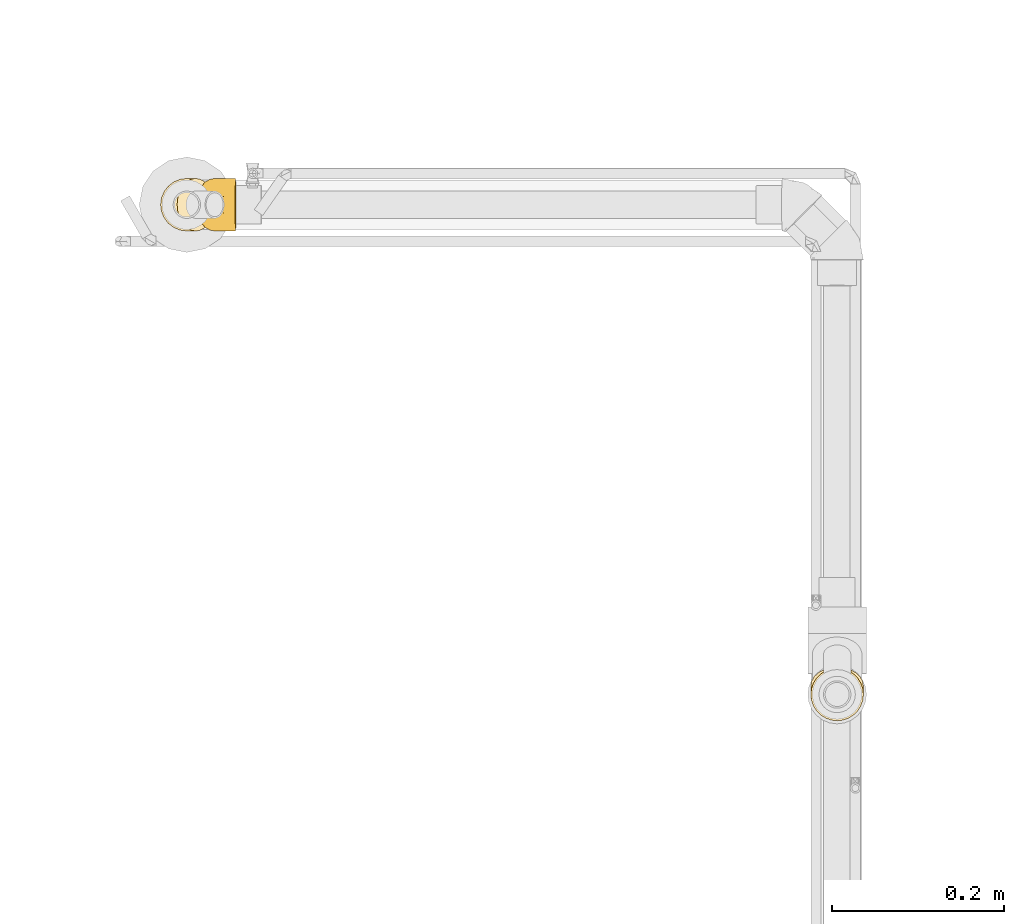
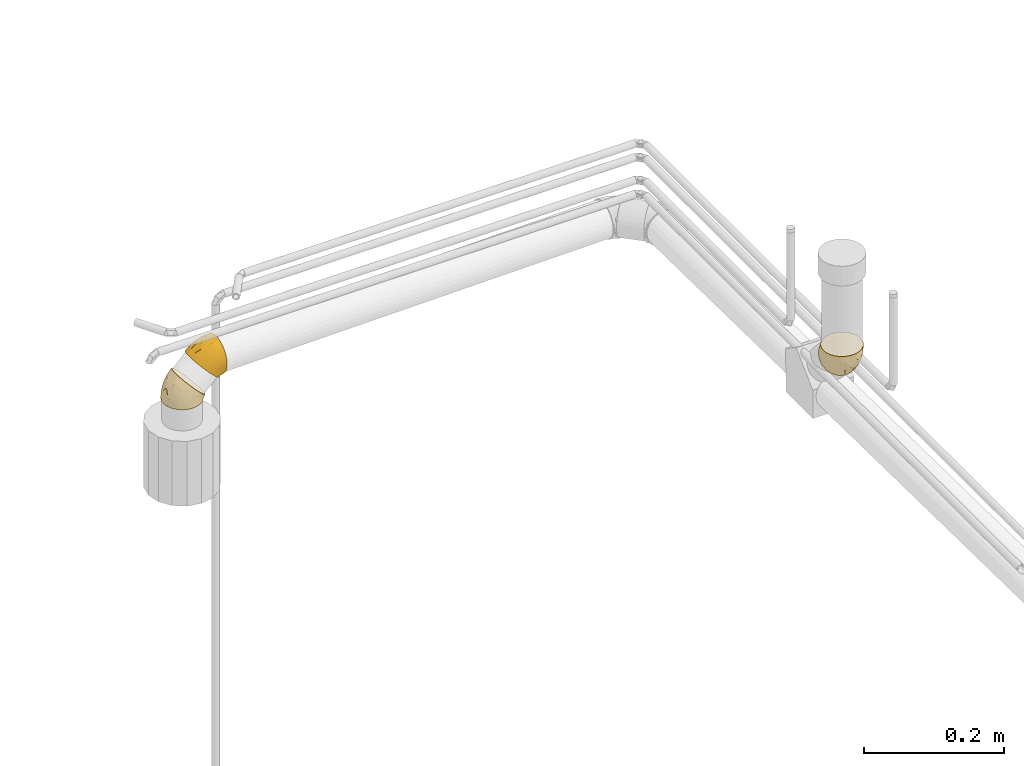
# One storey, part 17 of 108: 3 coverings.
"""IFC2X3 building model written with IfcOpenShell, lengths in millimetres."""

from ifc_helpers import new_model, entity, si_unit, converted_unit, derived_unit, direction, frame, origin_with_axes, place, context, subcontext, project, spatial, open_shell, surface_model, source, transform, mapped, element, save


model = new_model("IFC2X3")

# Units and contexts
model_context = context("Model", 3, precision=0.01, world=frame((0.0, 4.29681676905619e-09, 0.0)), true_north=direction((4.01073788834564e-13, 1.0)))
plan_context = context("Plan", 3, precision=0.01, world=frame((0.0, 4.29681676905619e-09, 0.0)), true_north=direction((4.01073788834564e-13, 1.0)))
body_context = subcontext(model_context, "Body", "Model", "MODEL_VIEW")
ifc_project = project(units=[converted_unit("PLANEANGLEUNIT", "DEGREE", entity("IfcPositiveLengthMeasure", 0.0174532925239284), si_unit("PLANEANGLEUNIT", "RADIAN"), dimensions=[0, 0, 0, 0, 0, 0, 0]), si_unit("AREAUNIT", "SQUARE_METRE"), si_unit("LENGTHUNIT", "METRE", prefix="MILLI"), si_unit("MASSUNIT", "GRAM", prefix="KILO"), si_unit("POWERUNIT", "WATT"), si_unit("PRESSUREUNIT", "PASCAL", prefix="KILO"), si_unit("FORCEUNIT", "NEWTON", prefix="KILO"), si_unit("ELECTRICVOLTAGEUNIT", "VOLT"), si_unit("ELECTRICCURRENTUNIT", "AMPERE"), si_unit("THERMODYNAMICTEMPERATUREUNIT", "DEGREE_CELSIUS"), si_unit("TIMEUNIT", "SECOND"), si_unit("VOLUMEUNIT", "CUBIC_METRE"), derived_unit("LINEARVELOCITYUNIT", [(si_unit("LENGTHUNIT", "METRE"), 1), (si_unit("TIMEUNIT", "SECOND"), -1)]), derived_unit("VOLUMETRICFLOWRATEUNIT", [(si_unit("VOLUMEUNIT", "CUBIC_METRE"), 1), (si_unit("TIMEUNIT", "SECOND"), -1)]), derived_unit("THERMALTRANSMITTANCEUNIT", [(si_unit("POWERUNIT", "WATT"), 1), (si_unit("THERMODYNAMICTEMPERATUREUNIT", "KELVIN"), -1), (si_unit("AREAUNIT", "SQUARE_METRE"), -1)]), derived_unit("SOUNDPRESSUREUNIT", [(si_unit("PRESSUREUNIT", "PASCAL"), 1)])], contexts=[model_context, plan_context])

# Site, building, storey
site_placement = place(None, frame((0.0, -4.29681676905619e-09, 0.0), z_axis=(0.0, 0.0, 1.0), x_axis=(1.0, 0.0, 0.0)))
site = spatial("IfcSite", under=ifc_project, at=site_placement, CompositionType="ELEMENT")
building_placement = place(site_placement, frame((0.0, 4.29681676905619e-09, 0.0), z_axis=(0.0, 0.0, 1.0), x_axis=(1.0, 0.0, 0.0)))
building = spatial("IfcBuilding", under=site, at=building_placement, Name="mc-building", CompositionType="ELEMENT")
storey_placement = place(building_placement, frame((0.0, 0.0, 210200.0), z_axis=(0.0, 0.0, 1.0), x_axis=(1.0, 0.0, 0.0)))
storey = spatial("IfcBuildingStorey", under=building, at=storey_placement, Name="Nivå F - 0,7 m", CompositionType="ELEMENT", Elevation=210200.0)

# Coverings
shared_shape_1 = source(origin_with_axes(), body_context, "Body", "SurfaceModel", [
    surface_model("IfcShellBasedSurfaceModel", [(-11.32763, 31.94731, 0.0), (-10.78458, 31.40426, 6.81254), (-9.1832, 29.80288, 13.28167), (-3.17775, 23.79743, 23.9276), (0.92483, 19.69486, 27.57178), (5.4978, 15.12188, 29.83368), (-6.60438, 27.22406, 19.08346), (27.22406, -6.60438, -19.08346), (-6.60952, 27.22921, -19.07433), (-9.18635, 29.80603, -13.27241), (-10.78576, 31.40544, -6.80525), (-3.1842, 23.80388, -23.92032), (0.91828, 19.7014, -27.56732), (10.30984, 10.30984, -30.6), (5.49265, 15.12704, -29.83202), (31.94731, -11.32763, 0.0), (15.12704, 5.49265, 29.83202), (19.7014, 0.91828, 27.56732), (27.22921, -6.60952, 19.07433), (29.80603, -9.18635, 13.27241), (23.80388, -3.1842, 23.92032), (31.40544, -10.78576, 6.80525), (19.69486, 0.92483, -27.57178), (23.79743, -3.17775, -23.9276), (15.12188, 5.4978, -29.83368), (31.40426, -10.78458, -6.81254), (29.80288, -9.1832, -13.28167), (10.30984, 10.30984, 30.6), (-14.58032, 29.55733, -7.91986), (-14.58032, 29.55733, 7.91986), (-14.58032, 30.6, 0.0), (-14.58032, 21.63747, -21.63747), (-14.58032, 26.50038, -15.3), (-14.58032, 15.3, -26.50038), (-14.58032, 26.50038, 15.3), (-14.58032, 7.91986, -29.55733), (-14.58032, 7.91986, 29.55733), (-14.58032, 21.63747, 21.63747), (-14.58032, 15.3, 26.50038), (-14.58032, -7.91986, 29.55733), (-14.58032, 0.0, 30.6), (-14.58032, 0.0, -30.6), (-14.58032, -7.91986, -29.55733), (-14.58032, -15.3, -26.50038), (-14.58032, -21.63747, -21.63747), (-14.58032, -26.50038, -15.3), (-14.58032, -29.55733, -7.91986), (-14.58032, -30.6, 0.0), (-14.58032, -15.3, 26.50038), (-14.58032, -29.55733, 7.91986), (-14.58032, -21.63747, 21.63747), (-14.58032, -26.50038, 15.3), (-3.31694, -19.08895, 22.94554), (-2.96055, -23.56618, 18.05755), (4.28228, -27.30645, 5.56058), (9.39397, -21.73659, 15.16447), (-1.7164, -27.15946, 11.21067), (15.88187, -13.54981, 20.97029), (-1.86061, -4.62817, 29.87755), (6.51082, 1.42545, 30.24937), (-1.10986, 2.67944, 30.6), (-3.4156, -11.50094, 27.78642), (15.29276, -7.55457, 25.47194), (6.09315, -13.56566, 24.91387), (8.01639, -5.52529, 28.40751), (-1.99003, -28.09564, 0.0), (10.60025, -25.59127, 0.0), (19.72319, -19.13401, 9.59543), (20.34533, -15.40121, 15.66878), (21.27378, -18.45945, 0.0), (6.13075, -19.15711, 20.21833), (-7.77081, 10.51178, 29.05846), (-1.5982, 13.72077, 28.8843), (5.46985, 7.07586, 30.6), (-7.84509, 1.33972, 30.6), (-7.21382, 17.7683, 25.91258), (-11.13057, 17.67143, 25.21609), (-12.94675, 29.27613, 9.60031), (-12.81997, 30.95015, 0.0), (-13.70015, 30.77508, 0.0), (-10.6141, 22.22624, 21.64141), (-12.652, 25.39805, 17.34379), (-7.56281, 23.58928, 21.64159), (-3.75572, 19.67719, 25.91258), (-11.96012, 31.52469, 0.0), (-11.31209, 29.79225, 10.11071), (-10.96293, 26.63968, 16.28498), (-9.26464, 27.57713, 16.28498), (-12.94733, 29.27954, -9.58989), (-11.31343, 29.79486, -10.10234), (-10.96509, 26.64511, -16.27569), (-12.6524, 25.404, -17.33519), (-7.77496, 10.52145, -29.05502), (-1.10986, 2.67944, -30.6), (-7.84509, 1.33972, -30.6), (-10.61641, 22.23379, -21.63352), (-11.13357, 17.67961, -25.21017), (-7.56708, 23.59634, -21.63334), (-9.26797, 27.58193, -16.27569), (5.46985, 7.07586, -30.6), (-1.60322, 13.72753, -28.88137), (-7.21768, 17.77675, -25.90675), (-3.76105, 19.6848, -25.90675), (8.0129, -5.51777, -28.41082), (4.28235, -27.30661, -5.55962), (-1.85891, -4.62315, -29.8785), (-2.96595, -23.56704, -18.05782), (-1.71033, -27.1583, -11.21043), (-3.42387, -11.49277, -27.79098), (6.09056, -13.55719, -24.92014), (-3.31399, -19.08646, -22.94716), (9.39135, -21.7321, -15.17351), (6.50892, 1.42782, -30.24983), (15.28786, -7.54692, -25.47798), (6.13182, -19.15831, -20.21661), (20.34212, -15.39869, -15.67532), (15.87812, -13.54289, -20.97863), (19.72055, -19.1325, -9.60354)], [open_shell([[[0, 1, 2]], [[0, 2, 3]], [[4, 5, 3]], [[3, 5, 0]], [[2, 6, 3]], [[7, 8, 0]], [[0, 8, 9]], [[9, 10, 0]], [[11, 8, 12]], [[13, 14, 12]], [[8, 13, 12]], [[7, 13, 8]], [[0, 5, 15]], [[15, 5, 16]], [[17, 15, 16]], [[17, 18, 15]], [[18, 19, 15]], [[18, 17, 20]], [[15, 19, 21]], [[22, 7, 23]], [[7, 22, 24]], [[15, 25, 7]], [[26, 7, 25]], [[24, 13, 7]], [[15, 7, 0]], [[27, 16, 5]], [[28, 29, 30]], [[31, 28, 32]], [[29, 28, 33]], [[33, 28, 31]], [[34, 33, 35]], [[34, 36, 37]], [[34, 29, 33]], [[37, 36, 38]], [[34, 35, 36]], [[39, 40, 36]], [[36, 35, 39]], [[41, 42, 43]], [[39, 41, 43]], [[44, 45, 46]], [[43, 44, 39]], [[46, 47, 44]], [[48, 49, 50]], [[47, 48, 39]], [[50, 49, 51]], [[49, 48, 47]], [[39, 44, 47]], [[41, 39, 35]], [[52, 48, 50]], [[50, 51, 53]], [[54, 55, 56]], [[50, 53, 52]], [[53, 56, 55]], [[20, 57, 18]], [[58, 59, 60]], [[58, 39, 61]], [[62, 57, 20]], [[40, 39, 58]], [[63, 64, 61]], [[61, 48, 52]], [[49, 47, 65]], [[54, 66, 67]], [[57, 68, 18]], [[19, 68, 67]], [[58, 61, 64]], [[69, 21, 67]], [[51, 49, 56]], [[49, 54, 56]], [[68, 55, 67]], [[59, 27, 60]], [[17, 16, 64]], [[62, 64, 63]], [[21, 69, 15]], [[54, 67, 55]], [[17, 62, 20]], [[65, 54, 49]], [[66, 54, 65]], [[19, 67, 21]], [[39, 48, 61]], [[63, 52, 70]], [[59, 64, 16]], [[58, 60, 40]], [[56, 53, 51]], [[55, 57, 70]], [[70, 52, 53]], [[52, 63, 61]], [[55, 70, 53]], [[63, 70, 57]], [[64, 62, 17]], [[57, 62, 63]], [[64, 59, 58]], [[27, 59, 16]], [[18, 68, 19]], [[57, 55, 68]], [[67, 66, 69]], [[71, 60, 72]], [[72, 73, 5]], [[36, 74, 71]], [[71, 75, 76]], [[77, 78, 79]], [[75, 80, 76]], [[77, 34, 81]], [[82, 83, 3]], [[82, 80, 75]], [[1, 0, 84]], [[78, 77, 85]], [[79, 29, 77]], [[4, 72, 5]], [[34, 77, 29]], [[4, 83, 72]], [[3, 6, 82]], [[3, 83, 4]], [[2, 1, 85]], [[85, 1, 84]], [[82, 75, 83]], [[77, 86, 85]], [[87, 6, 2]], [[78, 85, 84]], [[80, 82, 86]], [[87, 82, 6]], [[87, 85, 86]], [[71, 72, 75]], [[38, 36, 71]], [[5, 73, 27]], [[72, 60, 73]], [[29, 79, 30]], [[37, 80, 81]], [[72, 83, 75]], [[85, 87, 2]], [[82, 87, 86]], [[81, 80, 86]], [[76, 37, 38]], [[77, 81, 86]], [[37, 81, 34]], [[37, 76, 80]], [[71, 76, 38]], [[74, 36, 40]], [[74, 60, 71]], [[88, 78, 89]], [[89, 84, 10]], [[28, 79, 88]], [[88, 90, 91]], [[92, 93, 94]], [[90, 95, 91]], [[92, 33, 96]], [[97, 98, 8]], [[97, 95, 90]], [[14, 13, 99]], [[93, 92, 100]], [[94, 35, 92]], [[9, 89, 10]], [[33, 92, 35]], [[89, 9, 98]], [[100, 14, 99]], [[9, 8, 98]], [[88, 89, 90]], [[10, 84, 0]], [[97, 90, 98]], [[92, 101, 100]], [[102, 11, 12]], [[93, 100, 99]], [[31, 95, 96]], [[12, 14, 100]], [[102, 100, 101]], [[102, 97, 11]], [[8, 11, 97]], [[95, 97, 101]], [[89, 78, 84]], [[35, 94, 41]], [[32, 28, 88]], [[89, 98, 90]], [[100, 102, 12]], [[97, 102, 101]], [[96, 95, 101]], [[91, 31, 32]], [[92, 96, 101]], [[31, 96, 33]], [[31, 91, 95]], [[88, 91, 32]], [[79, 28, 30]], [[79, 78, 88]], [[24, 22, 103]], [[46, 104, 65]], [[93, 105, 41]], [[44, 106, 45]], [[46, 107, 104]], [[108, 103, 109]], [[106, 107, 45]], [[42, 41, 105]], [[108, 110, 43]], [[104, 107, 111]], [[43, 42, 108]], [[104, 66, 65]], [[112, 103, 105]], [[47, 46, 65]], [[103, 22, 113]], [[114, 111, 106]], [[113, 22, 23]], [[103, 108, 105]], [[115, 7, 26]], [[109, 113, 116]], [[46, 45, 107]], [[26, 117, 115]], [[104, 117, 66]], [[106, 110, 114]], [[115, 117, 111]], [[25, 69, 117]], [[26, 25, 117]], [[109, 110, 108]], [[112, 13, 24]], [[104, 111, 117]], [[116, 23, 7]], [[42, 105, 108]], [[112, 105, 93]], [[110, 106, 44]], [[107, 106, 111]], [[43, 110, 44]], [[114, 109, 116]], [[109, 114, 110]], [[111, 114, 116]], [[116, 113, 23]], [[103, 113, 109]], [[13, 112, 93]], [[103, 112, 24]], [[111, 116, 115]], [[7, 115, 116]], [[69, 25, 15]], [[69, 66, 117]]])]),
])
covering_1_placement = place(storey_placement, frame((330364.34908, 462127.61957, 172.719459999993), z_axis=(0.0, 1.0, 0.0), x_axis=(0.0, 0.0, 1.0)))
element("IfcCovering", 1, at=covering_1_placement, inside=storey, Name="BI17T - Cellegummi 13 mm SPV fett", PredefinedType="INSULATION", context=body_context, shape_type="MappedRepresentation", body=[
    mapped(shared_shape_1, transform((0.0, 0.0, 0.0), scale=1.0)),
])
shared_shape_2 = source(origin_with_axes(), body_context, "Body", "SurfaceModel", [
    surface_model("IfcShellBasedSurfaceModel", [(-11.03983, 31.89356, 0.0), (-10.50591, 31.34154, 6.81254), (-8.93143, 29.71369, 13.28167), (-6.401, 27.09749, -19.07433), (1.00675, 19.43863, 27.57178), (5.50288, 14.79008, 29.83368), (-3.02689, 23.609, 23.9276), (-6.39595, 27.09226, 19.08346), (10.23406, 9.89852, -30.6), (-10.50706, 31.34273, -6.80525), (-8.93453, 29.7169, -13.27241), (-3.03324, 23.61556, -23.92032), (1.00031, 19.44528, -27.56732), (5.49781, 14.79532, -29.83202), (14.96524, 5.00696, -29.83368), (10.23406, 9.89852, 30.6), (14.97031, 5.00172, 29.83202), (19.46781, 0.35176, 27.56732), (29.40266, -9.91986, 13.27241), (23.50136, -3.81852, 23.92032), (26.86913, -7.30045, 19.07433), (30.97519, -11.54569, 6.80525), (19.46138, 0.35841, -27.57178), (26.86407, -7.29522, -19.08346), (23.49502, -3.81196, -23.9276), (31.50795, -12.09652, 0.0), (30.97403, -11.5445, -6.81254), (29.39956, -9.91665, -13.28167), (-14.23786, 29.55733, -7.91986), (-14.23786, 29.55733, 7.91986), (-14.23786, 30.6, 0.0), (-14.23786, 21.63747, -21.63747), (-14.23786, 26.50038, -15.3), (-14.23786, 15.3, -26.50038), (-14.23786, 26.50038, 15.3), (-14.23786, 7.91986, -29.55733), (-14.23786, 7.91986, 29.55733), (-14.23786, 21.63747, 21.63747), (-14.23786, 15.3, 26.50038), (-14.23786, -7.91986, 29.55733), (-14.23786, 0.0, 30.6), (-14.23786, 0.0, -30.6), (-14.23786, -7.91986, -29.55733), (-14.23786, -15.3, -26.50038), (-14.23786, -21.63747, -21.63747), (-14.23786, -26.50038, -15.3), (-14.23786, -29.55733, -7.91986), (-14.23786, -30.6, 0.0), (-14.23786, -15.3, 26.50038), (-14.23786, -29.55733, 7.91986), (-14.23786, -21.63747, 21.63747), (-14.23786, -26.50038, 15.3), (-4.47914, -18.08054, 24.01288), (3.91226, -19.73172, 20.57233), (-2.52374, -24.61535, 16.52923), (9.25885, -21.90567, 15.21245), (5.60139, -26.44835, 7.90248), (19.32332, -19.58877, 9.61313), (15.53264, -13.95106, 20.99227), (20.97162, -18.94775, 0.0), (6.01426, -13.67457, 24.95827), (7.79582, -5.78669, 28.42368), (-2.18344, -4.80671, 29.88344), (-3.29516, -11.63218, 27.75094), (15.11137, -7.87717, 25.4932), (20.07411, -15.73289, 15.78846), (-1.90128, -28.19949, 0.0), (-4.27693, -29.32366, 5.57425), (10.43529, -25.79898, 0.0), (-4.59313, -27.78524, 11.09072), (6.31431, 0.99197, 30.23578), (-1.03885, 2.56833, 30.6), (-7.671, 10.64811, 28.99332), (-1.5474, 13.54717, 28.8843), (5.35271, 6.72443, 30.6), (-7.63836, 1.28416, 30.6), (-7.01416, 17.70864, 25.91258), (-10.84889, 17.60779, 25.25097), (-12.63361, 29.20063, 9.79535), (-12.51299, 30.93563, 0.0), (-13.37543, 30.76782, 0.0), (-10.50069, 22.15841, 21.64142), (-12.35551, 25.4247, 17.2929), (-10.69061, 26.61038, 16.28498), (-7.37801, 23.49544, 21.64159), (-11.67773, 31.47876, 0.0), (-11.04307, 29.74854, 10.11071), (-3.60116, 19.54784, 25.91258), (-9.01445, 27.51361, 16.28498), (-12.63414, 29.20409, -9.78506), (-11.04437, 29.75118, -10.10234), (-10.69271, 26.61583, -16.27569), (-12.35588, 25.43059, -17.28434), (-7.67514, 10.65765, -28.98985), (-1.03885, 2.56833, -30.6), (-7.63836, 1.28416, -30.6), (-10.50287, 22.16601, -21.63351), (-10.85184, 17.61594, -25.24511), (-7.01796, 17.71712, -25.90675), (-7.38218, 23.50256, -21.63334), (5.35271, 6.72443, -30.6), (-1.55234, 13.55399, -28.88137), (-9.01773, 27.51844, -16.27569), (-3.6064, 19.55551, -25.90675), (7.79244, -5.77911, -28.42698), (19.32066, -19.58725, -9.62124), (20.07108, -15.72824, -15.79766), (-2.18125, -4.80157, -29.88438), (-2.52823, -24.61064, -16.53777), (3.9083, -19.7254, -20.5803), (-4.60481, -27.7832, -11.10045), (-3.30331, -11.624, -27.7555), (6.01176, -13.66606, -24.96453), (9.25624, -21.90114, -15.22149), (5.58692, -26.45158, -7.90753), (-4.47379, -18.0715, -24.01914), (-4.2639, -29.32056, -5.58006), (6.31265, 0.99463, -30.23627), (15.52898, -13.94407, -21.00061), (15.10657, -7.86945, -25.49922)], [open_shell([[[0, 1, 2]], [[3, 0, 2]], [[4, 5, 6]], [[6, 5, 2]], [[2, 7, 6]], [[8, 2, 5]], [[9, 3, 10]], [[9, 0, 3]], [[11, 3, 12]], [[13, 12, 3]], [[13, 3, 2]], [[8, 13, 2]], [[5, 14, 8]], [[15, 16, 17]], [[15, 17, 18]], [[19, 20, 18]], [[18, 14, 15]], [[18, 17, 19]], [[14, 18, 21]], [[22, 23, 24]], [[23, 22, 14]], [[25, 26, 27]], [[27, 23, 25]], [[25, 23, 14]], [[14, 21, 25]], [[15, 14, 5]], [[28, 29, 30]], [[31, 28, 32]], [[29, 28, 33]], [[33, 28, 31]], [[34, 33, 35]], [[34, 36, 37]], [[34, 29, 33]], [[37, 36, 38]], [[34, 35, 36]], [[39, 40, 36]], [[36, 35, 39]], [[41, 42, 43]], [[39, 41, 43]], [[44, 45, 46]], [[43, 44, 39]], [[46, 47, 44]], [[48, 49, 50]], [[47, 48, 39]], [[50, 49, 51]], [[49, 48, 47]], [[39, 44, 47]], [[41, 39, 35]], [[52, 50, 53]], [[54, 55, 53]], [[56, 57, 55]], [[53, 55, 58]], [[21, 59, 25]], [[19, 58, 20]], [[53, 58, 60]], [[61, 62, 63]], [[64, 58, 19]], [[40, 39, 62]], [[60, 61, 63]], [[65, 58, 55]], [[47, 66, 67]], [[56, 68, 57]], [[18, 20, 65]], [[18, 65, 57]], [[54, 50, 51]], [[59, 21, 57]], [[56, 55, 69]], [[52, 53, 60]], [[63, 48, 52]], [[70, 15, 71]], [[17, 16, 61]], [[64, 61, 60]], [[58, 65, 20]], [[56, 69, 67]], [[17, 64, 19]], [[55, 54, 69]], [[57, 65, 55]], [[18, 57, 21]], [[50, 54, 53]], [[62, 70, 71]], [[51, 49, 69]], [[16, 70, 61]], [[39, 48, 63]], [[40, 62, 71]], [[39, 63, 62]], [[63, 52, 60]], [[50, 52, 48]], [[61, 64, 17]], [[68, 56, 66]], [[58, 64, 60]], [[61, 70, 62]], [[15, 70, 16]], [[57, 68, 59]], [[51, 69, 54]], [[67, 69, 49]], [[47, 67, 49]], [[56, 67, 66]], [[72, 71, 73]], [[73, 74, 5]], [[36, 75, 72]], [[72, 76, 77]], [[78, 79, 80]], [[76, 81, 77]], [[78, 34, 82]], [[82, 81, 83]], [[84, 81, 76]], [[1, 0, 85]], [[79, 78, 86]], [[80, 29, 78]], [[4, 73, 5]], [[34, 78, 29]], [[4, 87, 73]], [[6, 7, 84]], [[6, 87, 4]], [[2, 1, 86]], [[86, 1, 85]], [[84, 76, 87]], [[78, 83, 86]], [[88, 7, 2]], [[79, 86, 85]], [[81, 84, 83]], [[88, 84, 7]], [[88, 86, 83]], [[72, 73, 76]], [[38, 36, 72]], [[5, 74, 15]], [[73, 71, 74]], [[29, 80, 30]], [[37, 81, 82]], [[77, 37, 38]], [[84, 87, 6]], [[73, 87, 76]], [[86, 88, 2]], [[84, 88, 83]], [[78, 82, 83]], [[37, 82, 34]], [[37, 77, 81]], [[72, 77, 38]], [[75, 36, 40]], [[75, 71, 72]], [[89, 79, 90]], [[90, 85, 9]], [[28, 80, 89]], [[89, 91, 92]], [[93, 94, 95]], [[91, 96, 92]], [[93, 33, 97]], [[97, 96, 98]], [[99, 96, 91]], [[13, 8, 100]], [[94, 93, 101]], [[95, 35, 93]], [[10, 90, 9]], [[33, 93, 35]], [[90, 10, 102]], [[101, 13, 100]], [[10, 3, 102]], [[89, 90, 91]], [[9, 85, 0]], [[99, 91, 102]], [[93, 98, 101]], [[103, 11, 12]], [[94, 101, 100]], [[31, 96, 97]], [[12, 13, 101]], [[103, 101, 98]], [[103, 99, 11]], [[3, 11, 99]], [[96, 99, 98]], [[90, 79, 85]], [[35, 95, 41]], [[32, 28, 89]], [[92, 31, 32]], [[99, 102, 3]], [[90, 102, 91]], [[101, 103, 12]], [[99, 103, 98]], [[93, 97, 98]], [[31, 97, 33]], [[31, 92, 96]], [[89, 92, 32]], [[80, 28, 30]], [[80, 79, 89]], [[14, 22, 104]], [[105, 106, 27]], [[94, 107, 41]], [[108, 44, 109]], [[110, 45, 108]], [[111, 104, 112]], [[110, 108, 113]], [[110, 113, 114]], [[115, 112, 109]], [[108, 109, 113]], [[115, 44, 43]], [[110, 116, 46]], [[117, 104, 107]], [[118, 106, 113]], [[104, 22, 119]], [[111, 107, 104]], [[119, 22, 24]], [[109, 118, 113]], [[112, 115, 111]], [[112, 119, 118]], [[114, 113, 105]], [[106, 23, 27]], [[114, 105, 68]], [[116, 114, 66]], [[112, 118, 109]], [[106, 105, 113]], [[26, 59, 105]], [[27, 26, 105]], [[106, 118, 23]], [[117, 8, 14]], [[47, 46, 116]], [[118, 24, 23]], [[44, 108, 45]], [[43, 42, 111]], [[107, 94, 117]], [[111, 42, 107]], [[41, 107, 42]], [[44, 115, 109]], [[111, 115, 43]], [[114, 68, 66]], [[118, 119, 24]], [[104, 119, 112]], [[8, 117, 94]], [[104, 117, 14]], [[59, 26, 25]], [[59, 68, 105]], [[45, 110, 46]], [[114, 116, 110]], [[47, 116, 66]]])]),
])
covering_2_placement = place(storey_placement, frame((330406.77549, 462127.61957, 215.14585999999), z_axis=(0.0, 1.0, 0.0), x_axis=(0.707106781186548, 0.0, 0.707106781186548)))
element("IfcCovering", 2, at=covering_2_placement, inside=storey, Name="BI17T - Cellegummi 13 mm SPV fett", PredefinedType="INSULATION", context=body_context, shape_type="MappedRepresentation", body=[
    mapped(shared_shape_2, transform((0.0, 0.0, 0.0), scale=1.0)),
])
shared_shape_3 = source(origin_with_axes(), body_context, "Body", "SurfaceModel", [
    surface_model("IfcShellBasedSurfaceModel", [(-11.03983, 31.89356, 0.0), (-10.50591, 31.34154, 6.81254), (-8.93143, 29.71369, 13.28167), (1.00675, 19.43863, 27.57178), (5.50288, 14.79008, 29.83368), (-3.02689, 23.609, 23.9276), (-10.50706, 31.34273, -6.80525), (-6.401, 27.09749, -19.07433), (-8.93453, 29.7169, -13.27241), (-3.03324, 23.61556, -23.92032), (1.00031, 19.44528, -27.56732), (10.23406, 9.89852, 30.6), (14.97031, 5.00172, 29.83202), (19.46781, 0.35176, 27.56732), (19.46138, 0.35841, -27.57178), (26.86407, -7.29522, -19.08346), (23.49502, -3.81196, -23.9276), (14.96524, 5.00696, -29.83368), (-14.23786, 29.55733, -7.91986), (-14.23786, 29.55733, 7.91986), (-14.23786, 30.6, 0.0), (-14.23786, 21.63747, -21.63747), (-14.23786, 26.50038, -15.3), (-14.23786, 15.3, -26.50038), (-14.23786, 26.50038, 15.3), (-14.23786, 7.91986, -29.55733), (-14.23786, 7.91986, 29.55733), (-14.23786, 21.63747, 21.63747), (-14.23786, 15.3, 26.50038), (-14.23786, -7.91986, 29.55733), (-14.23786, 0.0, 30.6), (-14.23786, 0.0, -30.6), (-14.23786, -7.91986, -29.55733), (-14.23786, -15.3, -26.50038), (-14.23786, -21.63747, -21.63747), (-14.23786, -26.50038, -15.3), (-14.23786, -29.55733, -7.91986), (-14.23786, -30.6, 0.0), (-14.23786, -15.3, 26.50038), (-14.23786, -29.55733, 7.91986), (-14.23786, -21.63747, 21.63747), (-14.23786, -26.50038, 15.3), (-4.47914, -18.08054, 24.01288), (3.91226, -19.73172, 20.57233), (-2.52374, -24.61535, 16.52923), (9.25885, -21.90567, 15.21245), (5.60139, -26.44835, 7.90248), (19.32332, -19.58877, 9.61313), (15.53264, -13.95106, 20.99227), (30.97519, -11.54569, 6.80525), (20.97162, -18.94775, 0.0), (31.50795, -12.09652, 0.0), (23.50136, -3.81852, 23.92032), (26.86913, -7.30045, 19.07433), (6.01426, -13.67457, 24.95827), (7.79582, -5.78669, 28.42368), (-2.18344, -4.80671, 29.88344), (-3.29516, -11.63218, 27.75094), (15.11137, -7.87717, 25.4932), (20.07411, -15.73289, 15.78846), (-1.90128, -28.19949, 0.0), (-4.27693, -29.32366, 5.57425), (10.43529, -25.79898, 0.0), (29.40266, -9.91986, 13.27241), (-4.59313, -27.78524, 11.09072), (6.31431, 0.99197, 30.23578), (-1.03885, 2.56833, 30.6), (-7.671, 10.64811, 28.99332), (-1.5474, 13.54717, 28.8843), (5.35271, 6.72443, 30.6), (-7.63836, 1.28416, 30.6), (-7.01416, 17.70864, 25.91258), (-10.84889, 17.60779, 25.25097), (-12.63361, 29.20063, 9.79535), (-12.51299, 30.93563, 0.0), (-13.37543, 30.76782, 0.0), (-10.50069, 22.15841, 21.64142), (-12.35551, 25.4247, 17.2929), (-10.69061, 26.61038, 16.28498), (-7.37801, 23.49544, 21.64159), (-11.67773, 31.47876, 0.0), (-11.04307, 29.74854, 10.11071), (-3.60116, 19.54784, 25.91258), (-6.39595, 27.09226, 19.08346), (-9.01445, 27.51361, 16.28498), (-12.63414, 29.20409, -9.78506), (-11.04437, 29.75118, -10.10234), (-10.69271, 26.61583, -16.27569), (-12.35588, 25.43059, -17.28434), (-7.67514, 10.65765, -28.98985), (-1.03885, 2.56833, -30.6), (-7.63836, 1.28416, -30.6), (-10.50287, 22.16601, -21.63351), (-10.85184, 17.61594, -25.24511), (-7.01796, 17.71712, -25.90675), (-7.38218, 23.50256, -21.63334), (5.49781, 14.79532, -29.83202), (10.23406, 9.89852, -30.6), (5.35271, 6.72443, -30.6), (-1.55234, 13.55399, -28.88137), (-9.01773, 27.51844, -16.27569), (-3.6064, 19.55551, -25.90675), (7.79244, -5.77911, -28.42698), (19.32066, -19.58725, -9.62124), (20.07108, -15.72824, -15.79766), (29.39956, -9.91665, -13.28167), (-2.18125, -4.80157, -29.88438), (-2.52823, -24.61064, -16.53777), (3.9083, -19.7254, -20.5803), (-4.60481, -27.7832, -11.10045), (-3.30331, -11.624, -27.7555), (6.01176, -13.66606, -24.96453), (9.25624, -21.90114, -15.22149), (5.58692, -26.45158, -7.90753), (-4.47379, -18.0715, -24.01914), (-4.2639, -29.32056, -5.58006), (6.31265, 0.99463, -30.23627), (15.52898, -13.94407, -21.00061), (15.10657, -7.86945, -25.49922), (30.97403, -11.5445, -6.81254)], [open_shell([[[0, 1, 2]], [[3, 4, 5]], [[6, 7, 8]], [[9, 7, 10]], [[11, 12, 13]], [[14, 15, 16]], [[15, 14, 17]], [[18, 19, 20]], [[21, 18, 22]], [[19, 18, 23]], [[23, 18, 21]], [[24, 23, 25]], [[24, 26, 27]], [[24, 19, 23]], [[27, 26, 28]], [[24, 25, 26]], [[29, 30, 26]], [[26, 25, 29]], [[31, 32, 33]], [[29, 31, 33]], [[34, 35, 36]], [[33, 34, 29]], [[36, 37, 34]], [[38, 39, 40]], [[37, 38, 29]], [[40, 39, 41]], [[39, 38, 37]], [[29, 34, 37]], [[31, 29, 25]], [[42, 40, 43]], [[44, 45, 43]], [[46, 47, 45]], [[43, 45, 48]], [[49, 50, 51]], [[52, 48, 53]], [[43, 48, 54]], [[55, 56, 57]], [[58, 48, 52]], [[30, 29, 56]], [[54, 55, 57]], [[59, 48, 45]], [[37, 60, 61]], [[46, 62, 47]], [[63, 53, 59]], [[63, 59, 47]], [[44, 40, 41]], [[50, 49, 47]], [[46, 45, 64]], [[42, 43, 54]], [[57, 38, 42]], [[65, 11, 66]], [[13, 12, 55]], [[58, 55, 54]], [[48, 59, 53]], [[46, 64, 61]], [[13, 58, 52]], [[45, 44, 64]], [[47, 59, 45]], [[63, 47, 49]], [[40, 44, 43]], [[56, 65, 66]], [[41, 39, 64]], [[12, 65, 55]], [[29, 38, 57]], [[30, 56, 66]], [[29, 57, 56]], [[57, 42, 54]], [[40, 42, 38]], [[55, 58, 13]], [[62, 46, 60]], [[48, 58, 54]], [[55, 65, 56]], [[11, 65, 12]], [[47, 62, 50]], [[41, 64, 44]], [[61, 64, 39]], [[37, 61, 39]], [[46, 61, 60]], [[67, 66, 68]], [[68, 69, 4]], [[26, 70, 67]], [[67, 71, 72]], [[73, 74, 75]], [[71, 76, 72]], [[73, 24, 77]], [[77, 76, 78]], [[79, 76, 71]], [[1, 0, 80]], [[74, 73, 81]], [[75, 19, 73]], [[3, 68, 4]], [[24, 73, 19]], [[3, 82, 68]], [[5, 83, 79]], [[5, 82, 3]], [[2, 1, 81]], [[81, 1, 80]], [[79, 71, 82]], [[73, 78, 81]], [[84, 83, 2]], [[74, 81, 80]], [[76, 79, 78]], [[84, 79, 83]], [[84, 81, 78]], [[67, 68, 71]], [[28, 26, 67]], [[4, 69, 11]], [[68, 66, 69]], [[19, 75, 20]], [[27, 76, 77]], [[72, 27, 28]], [[79, 82, 5]], [[68, 82, 71]], [[81, 84, 2]], [[79, 84, 78]], [[73, 77, 78]], [[27, 77, 24]], [[27, 72, 76]], [[67, 72, 28]], [[70, 26, 30]], [[70, 66, 67]], [[85, 74, 86]], [[86, 80, 6]], [[18, 75, 85]], [[85, 87, 88]], [[89, 90, 91]], [[87, 92, 88]], [[89, 23, 93]], [[93, 92, 94]], [[95, 92, 87]], [[96, 97, 98]], [[90, 89, 99]], [[91, 25, 89]], [[8, 86, 6]], [[23, 89, 25]], [[86, 8, 100]], [[99, 96, 98]], [[8, 7, 100]], [[85, 86, 87]], [[6, 80, 0]], [[95, 87, 100]], [[89, 94, 99]], [[101, 9, 10]], [[90, 99, 98]], [[21, 92, 93]], [[10, 96, 99]], [[101, 99, 94]], [[101, 95, 9]], [[7, 9, 95]], [[92, 95, 94]], [[86, 74, 80]], [[25, 91, 31]], [[22, 18, 85]], [[88, 21, 22]], [[95, 100, 7]], [[86, 100, 87]], [[99, 101, 10]], [[95, 101, 94]], [[89, 93, 94]], [[21, 93, 23]], [[21, 88, 92]], [[85, 88, 22]], [[75, 18, 20]], [[75, 74, 85]], [[17, 14, 102]], [[103, 104, 105]], [[90, 106, 31]], [[107, 34, 108]], [[109, 35, 107]], [[110, 102, 111]], [[109, 107, 112]], [[109, 112, 113]], [[114, 111, 108]], [[107, 108, 112]], [[114, 34, 33]], [[109, 115, 36]], [[116, 102, 106]], [[117, 104, 112]], [[102, 14, 118]], [[110, 106, 102]], [[118, 14, 16]], [[108, 117, 112]], [[111, 114, 110]], [[111, 118, 117]], [[113, 112, 103]], [[104, 15, 105]], [[113, 103, 62]], [[115, 113, 60]], [[111, 117, 108]], [[104, 103, 112]], [[119, 50, 103]], [[105, 119, 103]], [[104, 117, 15]], [[116, 97, 17]], [[37, 36, 115]], [[117, 16, 15]], [[34, 107, 35]], [[33, 32, 110]], [[106, 90, 116]], [[110, 32, 106]], [[31, 106, 32]], [[34, 114, 108]], [[110, 114, 33]], [[113, 62, 60]], [[117, 118, 16]], [[102, 118, 111]], [[97, 116, 90]], [[102, 116, 17]], [[50, 119, 51]], [[50, 62, 103]], [[35, 109, 36]], [[113, 115, 109]], [[37, 115, 60]], [[0, 2, 83]], [[83, 5, 4]], [[83, 10, 0]], [[83, 15, 10]], [[7, 6, 10]], [[97, 96, 10]], [[0, 10, 6]], [[10, 17, 97]], [[83, 4, 13]], [[119, 83, 13]], [[13, 53, 51]], [[63, 49, 53]], [[53, 13, 52]], [[49, 51, 53]], [[17, 10, 15]], [[105, 15, 119]], [[119, 15, 83]], [[13, 51, 119]], [[13, 4, 11]]])]),
])
covering_3_placement = place(storey_placement, frame((331121.18062, 461557.6, 317.346140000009), z_axis=(-1.0, 0.0, 0.0), x_axis=(0.0, -0.695225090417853, 0.718792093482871)))
element("IfcCovering", 3, at=covering_3_placement, inside=storey, Name="BI17T - Cellegummi 13 mm SPV fett", PredefinedType="INSULATION", context=body_context, shape_type="MappedRepresentation", body=[
    mapped(shared_shape_3, transform((0.0, 0.0, 0.0), scale=1.0)),
])

save(model, "model.ifc")
